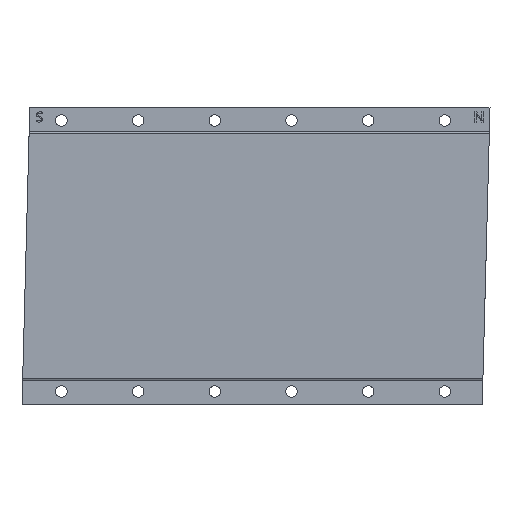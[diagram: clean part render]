
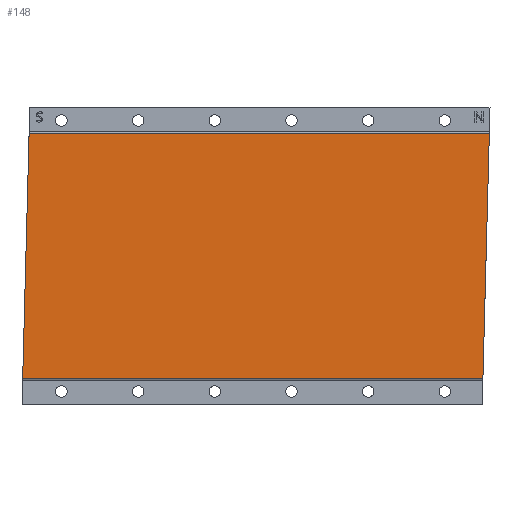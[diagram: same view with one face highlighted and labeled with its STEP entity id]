
A CAD part, front view. The second image highlights one B-rep face of the part: STEP entity #148.
In plain terms, the highlighted planar face has unit normal (0, -1, 0).
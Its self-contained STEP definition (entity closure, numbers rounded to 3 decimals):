
#148 = ADVANCED_FACE( '', ( #328 ), #329, .F. );
#328 = FACE_OUTER_BOUND( '', #505, .T. );
#329 = PLANE( '', #506 );
#505 = EDGE_LOOP( '', ( #946, #947, #948, #949 ) );
#506 = AXIS2_PLACEMENT_3D( '', #950, #951, #952 );
#946 = ORIENTED_EDGE( '', *, *, #1020, .F. );
#947 = ORIENTED_EDGE( '', *, *, #1088, .T. );
#948 = ORIENTED_EDGE( '', *, *, #1026, .F. );
#949 = ORIENTED_EDGE( '', *, *, #1041, .T. );
#950 = CARTESIAN_POINT( '', ( 0., -5.6, 0. ) );
#951 = DIRECTION( '', ( 0., 1., 0. ) );
#952 = DIRECTION( '', ( 0., 0., 1. ) );
#1020 = EDGE_CURVE( '', #1213, #1215, #1216, .T. );
#1026 = EDGE_CURVE( '', #1224, #1225, #1226, .T. );
#1041 = EDGE_CURVE( '', #1224, #1215, #1247, .F. );
#1088 = EDGE_CURVE( '', #1213, #1225, #1308, .F. );
#1213 = VERTEX_POINT( '', #1601 );
#1215 = VERTEX_POINT( '', #1603 );
#1216 = LINE( '', #1604, #1605 );
#1224 = VERTEX_POINT( '', #1616 );
#1225 = VERTEX_POINT( '', #1617 );
#1226 = LINE( '', #1618, #1619 );
#1247 = LINE( '', #1651, #1652 );
#1308 = LINE( '', #1786, #1787 );
#1601 = CARTESIAN_POINT( '', ( -176.219, -5.6, -55.232 ) );
#1603 = CARTESIAN_POINT( '', ( -173.704, -5.6, 40.968 ) );
#1604 = CARTESIAN_POINT( '', ( -176.23, -5.6, -55.632 ) );
#1605 = VECTOR( '', #1865, 1000. );
#1616 = CARTESIAN_POINT( '', ( 6.297, -5.6, 40.968 ) );
#1617 = CARTESIAN_POINT( '', ( 3.778, -5.6, -55.232 ) );
#1618 = CARTESIAN_POINT( '', ( 6.307, -5.6, 41.368 ) );
#1619 = VECTOR( '', #1872, 1000. );
#1651 = CARTESIAN_POINT( '', ( -173.693, -5.6, 40.968 ) );
#1652 = VECTOR( '', #1890, 1000. );
#1786 = CARTESIAN_POINT( '', ( 123.767, -5.6, -55.232 ) );
#1787 = VECTOR( '', #1921, 1000. );
#1865 = DIRECTION( '', ( 0.026, 0., 1. ) );
#1872 = DIRECTION( '', ( -0.026, 0., -1. ) );
#1890 = DIRECTION( '', ( 1., 0., 0. ) );
#1921 = DIRECTION( '', ( -1., 0., 0. ) );
